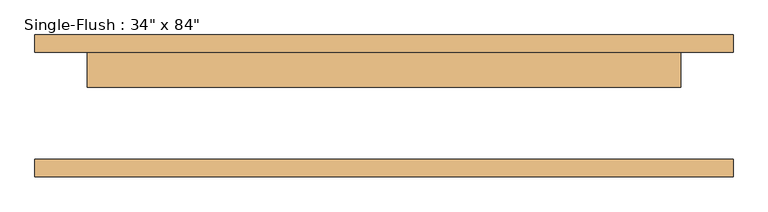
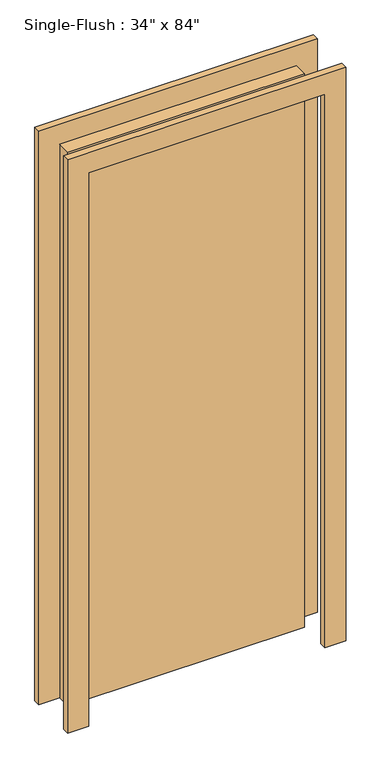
"""IFC4 building model written with IfcOpenShell, lengths in millimetres: door geometry."""

import ifcopenshell
import ifcopenshell.guid

model = None  # the IFC model being written
_history = None  # IfcOwnerHistory: only IFC2X3 demands one
_inside = {}  # id of a spatial element -> (the spatial element, [elements in it])
_under = {}  # id of a project, library or spatial element -> (it, [spatial elements below it])
_declared = {}  # id of a project -> (the project, [libraries it declares])
_typed = {}  # id of a type object -> (the type object, [elements of that type])
_made_of = {}  # id of a material, layer set ... -> (it, [elements and type objects made of it])


def new_model(schema):
    """Start an empty IFC model of exactly this schema.

    Asked for "IFC4X3", IfcOpenShell would pick the latest addendum, in which some entities
    have other attributes; the version numbers below select the first issue.
    IFC2X3 requires an IfcOwnerHistory on every rooted entity: one is made here for all.
    """
    global model, _history
    if schema == "IFC4X3":
        model = ifcopenshell.file(schema_version=(4, 3, 0, 0))
    else:
        model = ifcopenshell.file(schema=schema)
    _inside.clear()
    _under.clear()
    _declared.clear()
    _typed.clear()
    _made_of.clear()
    _history = None
    if model.schema == "IFC2X3":
        org = make("IfcOrganization", Name="unknown")
        user = make(
            "IfcPersonAndOrganization",
            ThePerson=make("IfcPerson", FamilyName="unknown"),
            TheOrganization=org,
        )
        app = make(
            "IfcApplication",
            ApplicationDeveloper=org,
            Version="unknown",
            ApplicationFullName="unknown",
            ApplicationIdentifier="unknown",
        )
        _history = make(
            "IfcOwnerHistory",
            OwningUser=user,
            OwningApplication=app,
            ChangeAction="ADDED",
            CreationDate=0,
        )
    return model


def make(cls, **values):
    """One entity of the class cls with the attributes given. An attribute that is None is left unset."""
    return model.create_entity(
        cls, **{name: value for name, value in values.items() if value is not None}
    )


def rooted(cls, **values):
    """An entity with a GlobalId (a new one), such as an element, a storey or a relation."""
    return make(cls, GlobalId=ifcopenshell.guid.new(), OwnerHistory=_history, **values)


def si_unit(unit_type, name, prefix=None):
    """IfcSIUnit, for example si_unit("LENGTHUNIT", "METRE", prefix="MILLI")."""
    return make("IfcSIUnit", UnitType=unit_type, Prefix=prefix, Name=name)


def assignment(units):
    """IfcUnitAssignment: the units of a project."""
    return None if units is None else make("IfcUnitAssignment", Units=units)


def point(xyz):
    """IfcCartesianPoint."""
    return None if xyz is None else make("IfcCartesianPoint", Coordinates=xyz)


def direction(xyz):
    """IfcDirection."""
    return None if xyz is None else make("IfcDirection", DirectionRatios=xyz)


def frame(location, z_axis=None, x_axis=None):
    """IfcAxis2Placement3D, a coordinate frame: its origin and axes. An axis left out is left unset."""
    return make(
        "IfcAxis2Placement3D",
        Location=point(location),
        Axis=direction(z_axis),
        RefDirection=direction(x_axis),
    )


def origin():
    """The frame at (0, 0, 0) with its axes left unset."""
    return frame((0.0, 0.0, 0.0))


def origin_with_axes():
    """The frame at (0, 0, 0) with the z axis (0, 0, 1) and the x axis (1, 0, 0) written out."""
    return frame((0.0, 0.0, 0.0), z_axis=(0.0, 0.0, 1.0), x_axis=(1.0, 0.0, 0.0))


def place(relative_to, where):
    """IfcLocalPlacement: puts the frame where relative to a parent placement (None: the world)."""
    return make(
        "IfcLocalPlacement", PlacementRelTo=relative_to, RelativePlacement=where
    )


def context(
    kind, dimensions, precision=None, world=None, true_north=None, identifier=None
):
    """IfcGeometricRepresentationContext, for example the 3D "Model" context."""
    return make(
        "IfcGeometricRepresentationContext",
        ContextIdentifier=identifier,
        ContextType=kind,
        CoordinateSpaceDimension=dimensions,
        Precision=precision,
        WorldCoordinateSystem=world,
        TrueNorth=true_north,
    )


def project(units=None, contexts=None):
    """IfcProject with its units and contexts."""
    return rooted(
        "IfcProject",
        Name="project",
        RepresentationContexts=contexts,
        UnitsInContext=assignment(units),
    )


def spatial(cls, under=None, at=None, **own):
    """A site, building, storey or space (cls), placed at a placement, below another one or the project."""
    s = rooted(cls, ObjectPlacement=at, **own)
    if under is not None:
        _under.setdefault(under.id(), (under, []))[1].append(s)
    return s


def polyline(points):
    """IfcPolyline through the points."""
    return make("IfcPolyline", Points=[point(p) for p in points])


def outline(outer, holes=None, kind="AREA"):
    """IfcArbitraryClosedProfileDef: a profile drawn as a closed curve; with holes, ...WithVoids."""
    if holes is None:
        return make("IfcArbitraryClosedProfileDef", ProfileType=kind, OuterCurve=outer)
    return make(
        "IfcArbitraryProfileDefWithVoids",
        ProfileType=kind,
        OuterCurve=outer,
        InnerCurves=holes,
    )


def extrude(swept, where, along, depth):
    """IfcExtrudedAreaSolid: the profile swept, set in the frame where, extruded along a direction by depth."""
    return make(
        "IfcExtrudedAreaSolid",
        SweptArea=swept,
        Position=where,
        ExtrudedDirection=direction(along),
        Depth=depth,
    )


def shape(context_of_items, identifier, shape_type, items):
    """IfcShapeRepresentation: the items that make up one representation, for example the "Body"."""
    return make(
        "IfcShapeRepresentation",
        ContextOfItems=context_of_items,
        RepresentationIdentifier=identifier,
        RepresentationType=shape_type,
        Items=items,
    )


def source(mapping_origin, context_of_items, identifier, shape_type, items):
    """IfcRepresentationMap: a shape defined once, which mapped items show again and again."""
    return make(
        "IfcRepresentationMap",
        MappingOrigin=mapping_origin,
        MappedRepresentation=shape(context_of_items, identifier, shape_type, items),
    )


def transform(
    local_origin,
    x_axis=None,
    y_axis=None,
    z_axis=None,
    scale=None,
    scale2=None,
    scale3=None,
    uniform=True,
):
    """IfcCartesianTransformationOperator3D, or its non-uniform kind. x_axis, y_axis, z_axis: its Axis1, 2, 3."""
    if uniform:
        return make(
            "IfcCartesianTransformationOperator3D",
            Axis1=direction(x_axis),
            Axis2=direction(y_axis),
            LocalOrigin=point(local_origin),
            Scale=scale,
            Axis3=direction(z_axis),
        )
    return make(
        "IfcCartesianTransformationOperator3DnonUniform",
        Axis1=direction(x_axis),
        Axis2=direction(y_axis),
        LocalOrigin=point(local_origin),
        Scale=scale,
        Axis3=direction(z_axis),
        Scale2=scale2,
        Scale3=scale3,
    )


def mapped(mapping_source, mapping_target):
    """IfcMappedItem: shows the shape of a source again, moved by a transform."""
    return make(
        "IfcMappedItem", MappingSource=mapping_source, MappingTarget=mapping_target
    )


def made_of(thing, what):
    """Note that an element or type object is made of a material, layer set ...; save() writes the relation."""
    if what is not None:
        _made_of.setdefault(what.id(), (what, []))[1].append(thing)
    return thing


def element(
    cls,
    number,
    at=None,
    inside=None,
    cuts=None,
    type_object=None,
    material=None,
    context=None,
    identifier="Body",
    shape_type=None,
    held_by="IfcProductDefinitionShape",
    body=None,
    shapes=None,
    **own,
):
    """One element of the class cls, such as IfcWall. Its Tag is "e" and its number.

    at: its placement. inside: the storey or other place that contains it. cuts: it is an
    opening in that element (IfcRelVoidsElement). A single representation is given by context,
    identifier, shape_type and body (its items); several are given by shapes. held_by: the class
    of the entity that holds the representations. save() writes the other relations.
    """
    e = rooted(cls, Tag="e%d" % number, ObjectPlacement=at, **own)
    if body is not None:
        shapes = [shape(context, identifier, shape_type, body)]
    if shapes is not None:
        e.Representation = make(held_by, Representations=shapes)
    if inside is not None:
        _inside.setdefault(inside.id(), (inside, []))[1].append(e)
    if cuts is not None:
        rooted(
            "IfcRelVoidsElement", RelatingBuildingElement=cuts, RelatedOpeningElement=e
        )
    if type_object is not None:
        _typed.setdefault(type_object.id(), (type_object, []))[1].append(e)
    return made_of(e, material)


def aggregate(whole, parts):
    """IfcRelAggregates: a whole, such as a stair, and the parts it consists of."""
    return rooted("IfcRelAggregates", RelatingObject=whole, RelatedObjects=parts)


def save(model, path):
    """Write the relations noted so far, then the file.

    IfcRelAggregates (storeys below a building ...), IfcRelContainedInSpatialStructure (elements
    in a storey), IfcRelDefinesByType, IfcRelAssociatesMaterial and IfcRelDeclares: one each for
    every whole, place, type object, material and project.
    """
    for whole, parts in _under.values():
        aggregate(whole, parts)
    for where, things in _inside.values():
        rooted(
            "IfcRelContainedInSpatialStructure",
            RelatedElements=things,
            RelatingStructure=where,
        )
    for kind, things in _typed.values():
        rooted("IfcRelDefinesByType", RelatedObjects=things, RelatingType=kind)
    for what, things in _made_of.values():
        rooted("IfcRelAssociatesMaterial", RelatedObjects=things, RelatingMaterial=what)
    for by, libraries in _declared.values():
        rooted("IfcRelDeclares", RelatingContext=by, RelatedDefinitions=libraries)
    model.write(path)


def door_8244bb97(model_context):
    return source(origin(), model_context, "Body", "SweptSolid", [
        extrude(outline(polyline([(2209.8, -508.0), (0.0, -508.0), (0.0, -431.8), (2133.6, -431.8), (2133.6, 431.8), (0.0, 431.8), (0.0, 508.0), (2209.8, 508.0), (2209.8, -508.0)])), frame((0.0, 77.7875, 0.0), z_axis=(0.0, 1.0, 0.0), x_axis=(0.0, 0.0, 1.0)), (0.0, 0.0, 1.0), 25.4),
        extrude(outline(polyline([(2209.8, 508.0), (2209.8, -508.0), (0.0, -508.0), (0.0, -431.8), (2133.6, -431.8), (2133.6, 431.8), (0.0, 431.8), (0.0, 508.0), (2209.8, 508.0)])), frame((0.0, -103.1875, 0.0), z_axis=(0.0, 1.0, 0.0), x_axis=(0.0, 0.0, 1.0)), (0.0, 0.0, 1.0), 25.4),
        extrude(outline(polyline([(431.8, 26.9875), (-431.8, 26.9875), (-431.8, 77.7875), (431.8, 77.7875), (431.8, 26.9875)])), origin_with_axes(), (0.0, 0.0, 1.0), 2133.6),
    ])


if __name__ == "__main__":
    model = new_model("IFC4")
    model_context = context("Model", 3, world=origin())
    ifc_project = project(units=[si_unit("LENGTHUNIT", "METRE", prefix="MILLI")], contexts=[model_context])
    site = spatial("IfcSite", under=ifc_project)
    building = spatial("IfcBuilding", under=site)
    placement = place(None, origin())
    door_shape = door_8244bb97(model_context)
    element("IfcDoor", 1, ObjectType="Single-Flush : 34\" x 84\"", at=placement, inside=building, context=model_context, shape_type="MappedRepresentation", body=[
        mapped(door_shape, transform((0.0, 0.0, 0.0), x_axis=(1.0, 0.0, 0.0), y_axis=(0.0, 1.0, 0.0), z_axis=(0.0, 0.0, 1.0))),
    ])
    save(model, "model.ifc")
